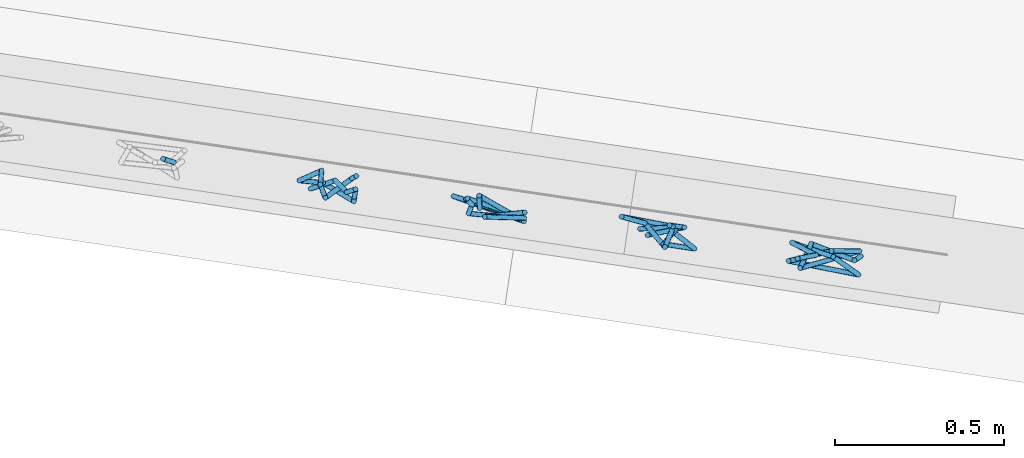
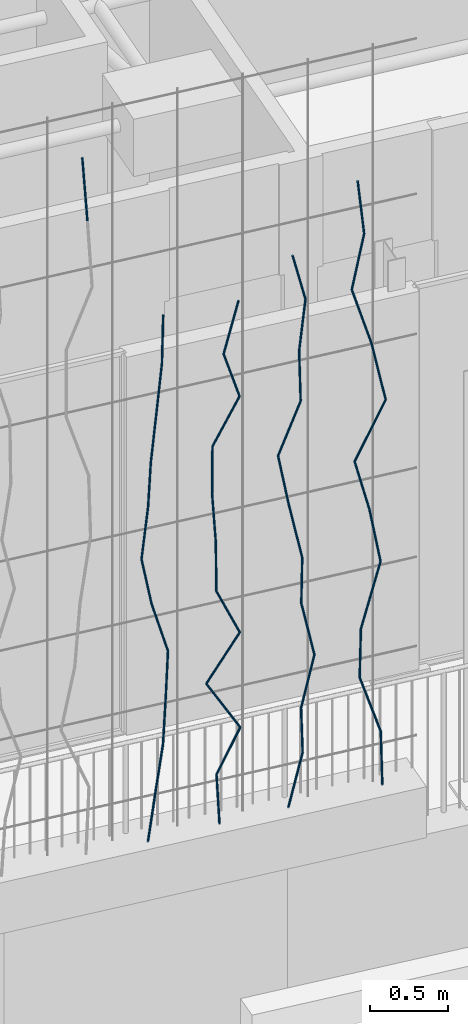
# One storey, part 113 of 142: 45 members, 1 element without a shape of its own.
"""IFC4 building model written with IfcOpenShell, lengths in metres."""

from ifc_helpers import new_model, si_unit, direction, frame, origin_with_axes, place, context, subcontext, project, spatial, circle, extrude, material, material_profile, profile_set, profile_usage, type_object, element, aggregate, save


model = new_model("IFC4")

# Units and contexts
model_context = context("Model", 3, precision=1e-05, world=origin_with_axes(), true_north=direction((0.0, 1.0)))
body_context = subcontext(model_context, "Body", "Model", "MODEL_VIEW")
ifc_project = project(units=[si_unit("VOLUMEUNIT", "CUBIC_METRE"), si_unit("LENGTHUNIT", "METRE"), si_unit("AREAUNIT", "SQUARE_METRE")], contexts=[model_context])

# Site, building, storey
site_placement = place(None, origin_with_axes())
site = spatial("IfcSite", under=ifc_project, at=site_placement, Name="Lares · Rua das Mercês · artigo 4771")
building_placement = place(site_placement, frame((12.0, 10.2, 13.9), z_axis=(0.0, 0.0, 1.0), x_axis=(0.989015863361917, -0.147809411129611, 0.0)))
building = spatial("IfcBuilding", under=site, at=building_placement, Name="Casa Sobreposta")
storey_placement = place(building_placement, origin_with_axes())
storey = spatial("IfcBuildingStorey", under=building, at=storey_placement, Name="00 · Habitação e estacionamento", Elevation=13.9)

# Assembly, members
assembly_placement = place(storey_placement, origin_with_axes())
assembly = element("IfcElementAssembly", 1, at=assembly_placement, inside=storey, Name="Fachada sul e pátio · estrutura e trepadeiras", ObjectType="LIVING_SHADE_TRELLIS", PredefinedType="USERDEFINED")
ifc_material = material(Name="Ramos de trepadeiras", Category="wood")
ifc_material_profile = material_profile(ifc_material, circle(Radius=0.0075))
ifc_profile_set = profile_set([ifc_material_profile], Name="D0.015")
ifc_profile_usage_1 = profile_usage(ifc_profile_set)
member_type = type_object("IfcMemberType", Name="D0.015 / vine_wood", PredefinedType="NOTDEFINED", material=ifc_profile_set)
member_1_placement = place(assembly_placement, frame((9.199402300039, -1.67760846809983, 5.32537169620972), z_axis=(-0.0662661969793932, 0.0107995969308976, 0.997743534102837), x_axis=(0.160850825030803, 0.986978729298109, 0.0)))
member_1 = element("IfcMember", 2, at=member_1_placement, type_object=member_type, material=ifc_profile_usage_1, Name="Trepadeiras · ramo", context=body_context, shape_type="SweptSolid", body=[
    extrude(circle(Radius=0.0075), origin_with_axes(), (0.0, 0.0, 1.0), 0.49866238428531),
])
ifc_profile_usage_2 = profile_usage(ifc_profile_set)
member_2_placement = place(assembly_placement, frame((9.61025777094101, -1.6950336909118, 0.35), z_axis=(0.181835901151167, 0.0919976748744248, 0.97901590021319), x_axis=(0.451447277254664, -0.892297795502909, 0.0)))
member_2 = element("IfcMember", 3, at=member_2_placement, type_object=member_type, material=ifc_profile_usage_2, Name="Trepadeiras · ramo", context=body_context, shape_type="SweptSolid", body=[
    extrude(circle(Radius=0.0075), origin_with_axes(), (0.0, 0.0, 1.0), 0.377933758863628),
])
ifc_profile_usage_3 = profile_usage(ifc_profile_set)
member_3_placement = place(assembly_placement, frame((9.67897969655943, -1.66026466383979, 0.72000315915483), z_axis=(0.103219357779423, -0.0774565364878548, 0.991638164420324), x_axis=(-0.600208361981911, -0.799843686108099, -1.33299173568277e-17)))
member_3 = element("IfcMember", 4, at=member_3_placement, type_object=member_type, material=ifc_profile_usage_3, Name="Trepadeiras · ramo", context=body_context, shape_type="SweptSolid", body=[
    extrude(circle(Radius=0.0075), origin_with_axes(), (0.0, 0.0, 1.0), 0.37312315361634),
])
ifc_profile_usage_4 = profile_usage(ifc_profile_set)
member_4_placement = place(assembly_placement, frame((9.71749322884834, -1.68916549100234, 1.09000631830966), z_axis=(0.0661164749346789, 0.0332706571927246, 0.997257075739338), x_axis=(0.449508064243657, -0.893276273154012, 0.0)))
member_4 = element("IfcMember", 5, at=member_4_placement, type_object=member_type, material=ifc_profile_usage_4, Name="Trepadeiras · ramo", context=body_context, shape_type="SweptSolid", body=[
    extrude(circle(Radius=0.0075), origin_with_axes(), (0.0, 0.0, 1.0), 0.371020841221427),
])
ifc_profile_usage_5 = profile_usage(ifc_profile_set)
member_5_placement = place(assembly_placement, frame((9.7420238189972, -1.67682138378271, 1.46000947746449), z_axis=(0.00123806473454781, -0.0968645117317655, 0.995296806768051), x_axis=(-0.999918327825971, -0.0127803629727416, 0.0)))
member_5 = element("IfcMember", 6, at=member_5_placement, type_object=member_type, material=ifc_profile_usage_5, Name="Trepadeiras · ramo", context=body_context, shape_type="SweptSolid", body=[
    extrude(circle(Radius=0.0075), origin_with_axes(), (0.0, 0.0, 1.0), 0.371751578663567),
])
ifc_profile_usage_6 = profile_usage(ifc_profile_set)
member_6_placement = place(assembly_placement, frame((9.74248407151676, -1.71283091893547, 1.83001263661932), z_axis=(-0.254351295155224, 0.104439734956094, 0.961456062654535), x_axis=(0.379838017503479, 0.925053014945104, 0.0)))
member_6 = element("IfcMember", 7, at=member_6_placement, type_object=member_type, material=ifc_profile_usage_6, Name="Trepadeiras · ramo", context=body_context, shape_type="SweptSolid", body=[
    extrude(circle(Radius=0.0075), origin_with_axes(), (0.0, 0.0, 1.0), 0.384836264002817),
])
ifc_profile_usage_7 = profile_usage(ifc_profile_set)
member_7_placement = place(assembly_placement, frame((9.64460046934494, -1.67263872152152, 2.20001579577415), z_axis=(-0.187379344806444, -0.00905636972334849, 0.982245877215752), x_axis=(-0.0482753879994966, 0.998834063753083, 0.0)))
member_7 = element("IfcMember", 8, at=member_7_placement, type_object=member_type, material=ifc_profile_usage_7, Name="Trepadeiras · ramo", context=body_context, shape_type="SweptSolid", body=[
    extrude(circle(Radius=0.0075), origin_with_axes(), (0.0, 0.0, 1.0), 0.376690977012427),
])
ifc_profile_usage_8 = profile_usage(ifc_profile_set)
member_8_placement = place(assembly_placement, frame((9.57401636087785, -1.67605017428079, 2.57001895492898), z_axis=(0.161141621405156, 0.102376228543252, 0.981607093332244), x_axis=(0.536247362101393, -0.844060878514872, 0.0)))
member_8 = element("IfcMember", 9, at=member_8_placement, type_object=member_type, material=ifc_profile_usage_8, Name="Trepadeiras · ramo", context=body_context, shape_type="SweptSolid", body=[
    extrude(circle(Radius=0.0075), origin_with_axes(), (0.0, 0.0, 1.0), 0.376936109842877),
])
ifc_profile_usage_9 = profile_usage(ifc_profile_set)
member_9_placement = place(assembly_placement, frame((9.63475645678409, -1.63746087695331, 2.94002211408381), z_axis=(0.00596860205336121, -0.110693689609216, 0.993836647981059), x_axis=(-0.998549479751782, -0.0538417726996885, 0.0)))
member_9 = element("IfcMember", 10, at=member_9_placement, type_object=member_type, material=ifc_profile_usage_9, Name="Trepadeiras · ramo", context=body_context, shape_type="SweptSolid", body=[
    extrude(circle(Radius=0.0075), origin_with_axes(), (0.0, 0.0, 1.0), 0.37229776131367),
])
ifc_profile_usage_10 = profile_usage(ifc_profile_set)
member_10_placement = place(assembly_placement, frame((9.63697855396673, -1.67867188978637, 3.31002527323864), z_axis=(0.0552654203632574, -0.097749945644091, 0.993675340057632), x_axis=(-0.870503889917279, -0.492161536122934, 0.0)))
member_10 = element("IfcMember", 11, at=member_10_placement, type_object=member_type, material=ifc_profile_usage_10, Name="Trepadeiras · ramo", context=body_context, shape_type="SweptSolid", body=[
    extrude(circle(Radius=0.0075), origin_with_axes(), (0.0, 0.0, 1.0), 0.372358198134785),
])
ifc_profile_usage_11 = profile_usage(ifc_profile_set)
member_11_placement = place(assembly_placement, frame((9.65755708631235, -1.71506988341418, 3.68002843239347), z_axis=(0.181682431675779, 0.179110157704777, 0.966907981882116), x_axis=(0.702047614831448, -0.712130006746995, 0.0)))
member_11 = element("IfcMember", 12, at=member_11_placement, type_object=member_type, material=ifc_profile_usage_11, Name="Trepadeiras · ramo", context=body_context, shape_type="SweptSolid", body=[
    extrude(circle(Radius=0.0075), origin_with_axes(), (0.0, 0.0, 1.0), 0.382666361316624),
])
ifc_profile_usage_12 = profile_usage(ifc_profile_set)
member_12_placement = place(assembly_placement, frame((9.72708084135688, -1.64653045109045, 4.0500315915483), z_axis=(0.0314138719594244, 0.0234221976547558, 0.999231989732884), x_axis=(0.999506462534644, -0.000736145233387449, -0.0314052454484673)))
member_12 = element("IfcMember", 13, at=member_12_placement, type_object=member_type, material=ifc_profile_usage_12, Name="Trepadeiras · ramo", context=body_context, shape_type="SweptSolid", body=[
    extrude(circle(Radius=0.0075), origin_with_axes(), (0.0, 0.0, 1.0), 0.370287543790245),
])
ifc_profile_usage_13 = profile_usage(ifc_profile_set)
member_13_placement = place(assembly_placement, frame((10.1127758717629, -1.67777790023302, 0.35), z_axis=(-0.0178101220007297, 0.0972106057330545, 0.995104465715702), x_axis=(0.983627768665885, 0.180212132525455, 0.0)))
member_13 = element("IfcMember", 14, at=member_13_placement, type_object=member_type, material=ifc_profile_usage_13, Name="Trepadeiras · ramo", context=body_context, shape_type="SweptSolid", body=[
    extrude(circle(Radius=0.0075), origin_with_axes(), (0.0, 0.0, 1.0), 0.372215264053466),
])
ifc_profile_usage_14 = profile_usage(ifc_profile_set)
member_14_placement = place(assembly_placement, frame((10.1061466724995, -1.64159462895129, 0.720393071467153), z_axis=(0.354526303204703, -0.138601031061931, 0.924716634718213), x_axis=(-0.36411078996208, -0.931355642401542, 0.0)))
member_14 = element("IfcMember", 15, at=member_14_placement, type_object=member_type, material=ifc_profile_usage_14, Name="Trepadeiras · ramo", context=body_context, shape_type="SweptSolid", body=[
    extrude(circle(Radius=0.0075), origin_with_axes(), (0.0, 0.0, 1.0), 0.400547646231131),
])
ifc_profile_usage_15 = profile_usage(ifc_profile_set)
member_15_placement = place(assembly_placement, frame((10.2481513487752, -1.69711094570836, 1.09078614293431), z_axis=(-0.504523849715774, 0.0987501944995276, 0.857731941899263), x_axis=(0.192084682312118, 0.98137835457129, 0.0)))
member_15 = element("IfcMember", 16, at=member_15_placement, type_object=member_type, material=ifc_profile_usage_15, Name="Trepadeiras · ramo", context=body_context, shape_type="SweptSolid", body=[
    extrude(circle(Radius=0.0075), origin_with_axes(), (0.0, 0.0, 1.0), 0.431828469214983),
])
ifc_profile_usage_16 = profile_usage(ifc_profile_set)
member_16_placement = place(assembly_placement, frame((10.03028358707, -1.65446780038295, 1.46117921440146), z_axis=(0.505500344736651, -0.0809606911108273, 0.859019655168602), x_axis=(-0.158144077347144, -0.987416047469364, 0.0)))
member_16 = element("IfcMember", 17, at=member_16_placement, type_object=member_type, material=ifc_profile_usage_16, Name="Trepadeiras · ramo", context=body_context, shape_type="SweptSolid", body=[
    extrude(circle(Radius=0.0075), origin_with_axes(), (0.0, 0.0, 1.0), 0.431181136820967),
])
ifc_profile_usage_17 = profile_usage(ifc_profile_set)
member_17_placement = place(assembly_placement, frame((10.2482458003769, -1.68937652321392, 1.83157228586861), z_axis=(-0.407442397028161, -0.0220574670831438, 0.91296449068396), x_axis=(-0.0540572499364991, 0.998537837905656, 0.0)))
member_17 = element("IfcMember", 18, at=member_17_placement, type_object=member_type, material=ifc_profile_usage_17, Name="Trepadeiras · ramo", context=body_context, shape_type="SweptSolid", body=[
    extrude(circle(Radius=0.0075), origin_with_axes(), (0.0, 0.0, 1.0), 0.405703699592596),
])
ifc_profile_usage_18 = profile_usage(ifc_profile_set)
member_18_placement = place(assembly_placement, frame((10.0829449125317, -1.6983253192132, 2.20196535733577), z_axis=(0.0168158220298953, 0.0729273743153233, 0.997195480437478), x_axis=(0.974430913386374, -0.224687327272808, 0.0)))
member_18 = element("IfcMember", 19, at=member_18_placement, type_object=member_type, material=ifc_profile_usage_18, Name="Trepadeiras · ramo", context=body_context, shape_type="SweptSolid", body=[
    extrude(circle(Radius=0.0075), origin_with_axes(), (0.0, 0.0, 1.0), 0.371434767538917),
])
ifc_profile_usage_19 = profile_usage(ifc_profile_set)
member_19_placement = place(assembly_placement, frame((10.0891908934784, -1.67123755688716, 2.57235842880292), z_axis=(-0.0535324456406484, 0.0374666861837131, 0.997862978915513), x_axis=(0.573400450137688, 0.819275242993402, 0.0)))
member_19 = element("IfcMember", 20, at=member_19_placement, type_object=member_type, material=ifc_profile_usage_19, Name="Trepadeiras · ramo", context=body_context, shape_type="SweptSolid", body=[
    extrude(circle(Radius=0.0075), origin_with_axes(), (0.0, 0.0, 1.0), 0.371186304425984),
])
ifc_profile_usage_20 = profile_usage(ifc_profile_set)
member_20_placement = place(assembly_placement, frame((10.0693203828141, -1.65733043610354, 2.94275150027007), z_axis=(0.00942132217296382, 0.00713172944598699, 0.999930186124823), x_axis=(0.999955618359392, -6.71933029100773e-05, -0.00942108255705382)))
member_20 = element("IfcMember", 21, at=member_20_placement, type_object=member_type, material=ifc_profile_usage_20, Name="Trepadeiras · ramo", context=body_context, shape_type="SweptSolid", body=[
    extrude(circle(Radius=0.0075), origin_with_axes(), (0.0, 0.0, 1.0), 0.370418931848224),
])
ifc_profile_usage_21 = profile_usage(ifc_profile_set)
member_21_placement = place(assembly_placement, frame((10.07281021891, -1.65468870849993, 3.31314457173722), z_axis=(0.424990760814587, -0.0796342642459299, 0.90168799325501), x_axis=(-0.184173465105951, -0.982893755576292, 0.0)))
member_21 = element("IfcMember", 22, at=member_21_placement, type_object=member_type, material=ifc_profile_usage_21, Name="Trepadeiras · ramo", context=body_context, shape_type="SweptSolid", body=[
    extrude(circle(Radius=0.0075), origin_with_axes(), (0.0, 0.0, 1.0), 0.410777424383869),
])
ifc_profile_usage_22 = profile_usage(ifc_profile_set)
member_22_placement = place(assembly_placement, frame((10.2473868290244, -1.68740066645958, 3.68353764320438), z_axis=(-0.297817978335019, -0.0352407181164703, 0.9539719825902), x_axis=(-0.117509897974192, 0.993071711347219, 0.0)))
member_22 = element("IfcMember", 23, at=member_22_placement, type_object=member_type, material=ifc_profile_usage_22, Name="Trepadeiras · ramo", context=body_context, shape_type="SweptSolid", body=[
    extrude(circle(Radius=0.0075), origin_with_axes(), (0.0, 0.0, 1.0), 0.388264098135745),
])
ifc_profile_usage_23 = profile_usage(ifc_profile_set)
member_23_placement = place(assembly_placement, frame((10.1317548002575, -1.70108337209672, 4.05393071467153), z_axis=(0.296227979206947, 0.07819125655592, 0.951911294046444), x_axis=(0.255215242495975, -0.96688426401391, 0.0)))
member_23 = element("IfcMember", 24, at=member_23_placement, type_object=member_type, material=ifc_profile_usage_23, Name="Trepadeiras · ramo", context=body_context, shape_type="SweptSolid", body=[
    extrude(circle(Radius=0.0075), origin_with_axes(), (0.0, 0.0, 1.0), 0.389104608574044),
])
ifc_profile_usage_24 = profile_usage(ifc_profile_set)
member_24_placement = place(assembly_placement, frame((10.590649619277, -1.66855686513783, 0.35), z_axis=(0.264650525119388, 0.0531521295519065, 0.962878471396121), x_axis=(0.196906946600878, -0.980422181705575, 0.0)))
member_24 = element("IfcMember", 25, at=member_24_placement, type_object=member_type, material=ifc_profile_usage_24, Name="Trepadeiras · ramo", context=body_context, shape_type="SweptSolid", body=[
    extrude(circle(Radius=0.0075), origin_with_axes(), (0.0, 0.0, 1.0), 0.409890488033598),
])
ifc_profile_usage_25 = profile_usage(ifc_profile_set)
member_25_placement = place(assembly_placement, frame((10.6991273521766, -1.64677031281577, 0.7446747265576), z_axis=(-0.0820644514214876, -0.139915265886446, 0.986756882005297), x_axis=(-0.862576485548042, 0.505926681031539, 0.0)))
member_25 = element("IfcMember", 26, at=member_25_placement, type_object=member_type, material=ifc_profile_usage_25, Name="Trepadeiras · ramo", context=body_context, shape_type="SweptSolid", body=[
    extrude(circle(Radius=0.0075), origin_with_axes(), (0.0, 0.0, 1.0), 0.399971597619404),
])
ifc_profile_usage_26 = profile_usage(ifc_profile_set)
member_26_placement = place(assembly_placement, frame((10.6663039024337, -1.70273244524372, 1.1393494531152), z_axis=(0.228028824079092, 0.000120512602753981, 0.973654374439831), x_axis=(0.000528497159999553, -0.999999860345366, 0.0)))
member_26 = element("IfcMember", 27, at=member_26_placement, type_object=member_type, material=ifc_profile_usage_26, Name="Trepadeiras · ramo", context=body_context, shape_type="SweptSolid", body=[
    extrude(circle(Radius=0.0075), origin_with_axes(), (0.0, 0.0, 1.0), 0.40535403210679),
])
ifc_profile_usage_27 = profile_usage(ifc_profile_set)
member_27_placement = place(assembly_placement, frame((10.7587363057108, -1.70268359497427, 1.5340241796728), z_axis=(-0.183407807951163, 0.104798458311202, 0.977434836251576), x_axis=(0.496117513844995, 0.868255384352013, 0.0)))
member_27 = element("IfcMember", 28, at=member_27_placement, type_object=member_type, material=ifc_profile_usage_27, Name="Trepadeiras · ramo", context=body_context, shape_type="SweptSolid", body=[
    extrude(circle(Radius=0.0075), origin_with_axes(), (0.0, 0.0, 1.0), 0.403786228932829),
])
ifc_profile_usage_28 = profile_usage(ifc_profile_set)
member_28_placement = place(assembly_placement, frame((10.6846787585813, -1.66036742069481, 1.9286989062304), z_axis=(-0.0335710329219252, -0.126691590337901, 0.991373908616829), x_axis=(-0.966639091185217, 0.256142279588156, 0.0)))
member_28 = element("IfcMember", 29, at=member_28_placement, type_object=member_type, material=ifc_profile_usage_28, Name="Trepadeiras · ramo", context=body_context, shape_type="SweptSolid", body=[
    extrude(circle(Radius=0.0075), origin_with_axes(), (0.0, 0.0, 1.0), 0.398108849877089),
])
ifc_profile_usage_29 = profile_usage(ifc_profile_set)
member_29_placement = place(assembly_placement, frame((10.6713138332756, -1.71080446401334, 2.323373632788), z_axis=(-0.170517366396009, 0.151109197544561, 0.973699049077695), x_axis=(0.663230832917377, 0.748414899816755, 0.0)))
member_29 = element("IfcMember", 30, at=member_29_placement, type_object=member_type, material=ifc_profile_usage_29, Name="Trepadeiras · ramo", context=body_context, shape_type="SweptSolid", body=[
    extrude(circle(Radius=0.0075), origin_with_axes(), (0.0, 0.0, 1.0), 0.405335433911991),
])
ifc_profile_usage_30 = profile_usage(ifc_profile_set)
member_30_placement = place(assembly_placement, frame((10.6021971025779, -1.64955455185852, 2.7180483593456), z_axis=(-0.175755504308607, 0.0216898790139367, 0.984194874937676), x_axis=(0.122480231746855, 0.992470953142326, 0.0)))
member_30 = element("IfcMember", 31, at=member_30_placement, type_object=member_type, material=ifc_profile_usage_30, Name="Trepadeiras · ramo", context=body_context, shape_type="SweptSolid", body=[
    extrude(circle(Radius=0.0075), origin_with_axes(), (0.0, 0.0, 1.0), 0.401012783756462),
])
ifc_profile_usage_31 = profile_usage(ifc_profile_set)
member_31_placement = place(assembly_placement, frame((10.5317168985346, -1.6408566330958, 3.1127230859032), z_axis=(0.363053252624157, -0.0146242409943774, 0.931653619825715), x_axis=(-0.0402486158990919, -0.99918969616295, 0.0)))
member_31 = element("IfcMember", 32, at=member_31_placement, type_object=member_type, material=ifc_profile_usage_31, Name="Trepadeiras · ramo", context=body_context, shape_type="SweptSolid", body=[
    extrude(circle(Radius=0.0075), origin_with_axes(), (0.0, 0.0, 1.0), 0.423628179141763),
])
ifc_profile_usage_32 = profile_usage(ifc_profile_set)
member_32_placement = place(assembly_placement, frame((10.6855164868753, -1.64705187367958, 3.5073978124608), z_axis=(-0.0246994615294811, 0.00534946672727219, 0.999680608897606), x_axis=(0.999694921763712, 0.00013216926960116, 0.0246991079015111)))
member_32 = element("IfcMember", 33, at=member_32_placement, type_object=member_type, material=ifc_profile_usage_32, Name="Trepadeiras · ramo", context=body_context, shape_type="SweptSolid", body=[
    extrude(circle(Radius=0.0075), origin_with_axes(), (0.0, 0.0, 1.0), 0.394800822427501),
])
ifc_profile_usage_33 = profile_usage(ifc_profile_set)
member_33_placement = place(assembly_placement, frame((10.6757651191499, -1.6449398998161, 3.9020725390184), z_axis=(0.110635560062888, 0.000545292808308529, 0.993860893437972), x_axis=(0.00492867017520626, -0.99998785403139, 0.0)))
member_33 = element("IfcMember", 34, at=member_33_placement, type_object=member_type, material=ifc_profile_usage_33, Name="Trepadeiras · ramo", context=body_context, shape_type="SweptSolid", body=[
    extrude(circle(Radius=0.0075), origin_with_axes(), (0.0, 0.0, 1.0), 0.397112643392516),
])
ifc_profile_usage_34 = profile_usage(ifc_profile_set)
member_34_placement = place(assembly_placement, frame((10.7196998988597, -1.64472335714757, 4.296747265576), z_axis=(-0.254491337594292, -0.0944672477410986, 0.962450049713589), x_axis=(-0.347998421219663, 0.937495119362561, 0.0)))
member_34 = element("IfcMember", 35, at=member_34_placement, type_object=member_type, material=ifc_profile_usage_34, Name="Trepadeiras · ramo", context=body_context, shape_type="SweptSolid", body=[
    extrude(circle(Radius=0.0075), origin_with_axes(), (0.0, 0.0, 1.0), 0.410072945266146),
])
ifc_profile_usage_35 = profile_usage(ifc_profile_set)
member_35_placement = place(assembly_placement, frame((11.248102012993, -1.65190370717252, 0.35), z_axis=(-0.0386935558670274, -0.034357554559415, 0.998660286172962), x_axis=(-0.663967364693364, 0.747761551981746, 0.0)))
member_35 = element("IfcMember", 36, at=member_35_placement, type_object=member_type, material=ifc_profile_usage_35, Name="Trepadeiras · ramo", context=body_context, shape_type="SweptSolid", body=[
    extrude(circle(Radius=0.0075), origin_with_axes(), (0.0, 0.0, 1.0), 0.438063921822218),
])
ifc_profile_usage_36 = profile_usage(ifc_profile_set)
member_36_placement = place(assembly_placement, frame((11.2311517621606, -1.66695451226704, 0.787477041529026), z_axis=(-0.292111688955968, 0.0645743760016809, 0.954201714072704), x_axis=(0.215849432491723, 0.976426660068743, 0.0)))
member_36 = element("IfcMember", 37, at=member_36_placement, type_object=member_type, material=ifc_profile_usage_36, Name="Trepadeiras · ramo", context=body_context, shape_type="SweptSolid", body=[
    extrude(circle(Radius=0.0075), origin_with_axes(), (0.0, 0.0, 1.0), 0.458474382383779),
])
ifc_profile_usage_37 = profile_usage(ifc_profile_set)
member_37_placement = place(assembly_placement, frame((11.0972260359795, -1.63734881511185, 1.22495408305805), z_axis=(-0.0480043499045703, -0.17064406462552, 0.984162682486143), x_axis=(-0.962635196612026, 0.270801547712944, 0.0)))
member_37 = element("IfcMember", 38, at=member_37_placement, type_object=member_type, material=ifc_profile_usage_37, Name="Trepadeiras · ramo", context=body_context, shape_type="SweptSolid", body=[
    extrude(circle(Radius=0.0075), origin_with_axes(), (0.0, 0.0, 1.0), 0.44451699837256),
])
ifc_profile_usage_38 = profile_usage(ifc_profile_set)
member_38_placement = place(assembly_placement, frame((11.0758872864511, -1.71320300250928, 1.66243112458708), z_axis=(0.349610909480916, 0.159453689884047, 0.923226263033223), x_axis=(0.414966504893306, -0.909836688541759, 0.0)))
member_38 = element("IfcMember", 39, at=member_38_placement, type_object=member_type, material=ifc_profile_usage_38, Name="Trepadeiras · ramo", context=body_context, shape_type="SweptSolid", body=[
    extrude(circle(Radius=0.0075), origin_with_axes(), (0.0, 0.0, 1.0), 0.473856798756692),
])
ifc_profile_usage_39 = profile_usage(ifc_profile_set)
member_39_placement = place(assembly_placement, frame((11.2415527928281, -1.63764478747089, 2.09990816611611), z_axis=(-0.183712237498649, -0.026320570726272, 0.982627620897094), x_axis=(-0.141822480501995, 0.989892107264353, 0.0)))
member_39 = element("IfcMember", 40, at=member_39_placement, type_object=member_type, material=ifc_profile_usage_39, Name="Trepadeiras · ramo", context=body_context, shape_type="SweptSolid", body=[
    extrude(circle(Radius=0.0075), origin_with_axes(), (0.0, 0.0, 1.0), 0.445211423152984),
])
ifc_profile_usage_40 = profile_usage(ifc_profile_set)
member_40_placement = place(assembly_placement, frame((11.1597620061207, -1.64936300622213, 2.53738520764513), z_axis=(-0.265224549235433, -0.105236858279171, 0.958426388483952), x_axis=(-0.368812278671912, 0.92950390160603, 0.0)))
member_40 = element("IfcMember", 41, at=member_40_placement, type_object=member_type, material=ifc_profile_usage_40, Name="Trepadeiras · ramo", context=body_context, shape_type="SweptSolid", body=[
    extrude(circle(Radius=0.0075), origin_with_axes(), (0.0, 0.0, 1.0), 0.456453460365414),
])
ifc_profile_usage_41 = profile_usage(ifc_profile_set)
member_41_placement = place(assembly_placement, frame((11.0386993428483, -1.69739873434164, 2.97486224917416), z_axis=(0.434271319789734, -0.0200254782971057, 0.900559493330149), x_axis=(-0.0460638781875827, -0.998938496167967, 0.0)))
member_41 = element("IfcMember", 42, at=member_41_placement, type_object=member_type, material=ifc_profile_usage_41, Name="Trepadeiras · ramo", context=body_context, shape_type="SweptSolid", body=[
    extrude(circle(Radius=0.0075), origin_with_axes(), (0.0, 0.0, 1.0), 0.485783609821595),
])
ifc_profile_usage_42 = profile_usage(ifc_profile_set)
member_42_placement = place(assembly_placement, frame((11.2496612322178, -1.70712678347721, 3.41233929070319), z_axis=(-0.183988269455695, 0.092285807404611, 0.97858655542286), x_axis=(0.448346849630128, 0.893859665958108, 0.0)))
member_42 = element("IfcMember", 43, at=member_42_placement, type_object=member_type, material=ifc_profile_usage_42, Name="Trepadeiras · ramo", context=body_context, shape_type="SweptSolid", body=[
    extrude(circle(Radius=0.0075), origin_with_axes(), (0.0, 0.0, 1.0), 0.447049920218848),
])
ifc_profile_usage_43 = profile_usage(ifc_profile_set)
member_43_placement = place(assembly_placement, frame((11.1674092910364, -1.66587042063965, 3.84981633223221), z_axis=(-0.277576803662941, 0.0517158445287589, 0.959310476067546), x_axis=(0.183160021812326, 0.983083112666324, 0.0)))
member_43 = element("IfcMember", 44, at=member_43_placement, type_object=member_type, material=ifc_profile_usage_43, Name="Trepadeiras · ramo", context=body_context, shape_type="SweptSolid", body=[
    extrude(circle(Radius=0.0075), origin_with_axes(), (0.0, 0.0, 1.0), 0.456032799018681),
])
ifc_profile_usage_44 = profile_usage(ifc_profile_set)
member_44_placement = place(assembly_placement, frame((11.0408251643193, -1.64228629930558, 4.28729337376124), z_axis=(0.169074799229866, -0.0585839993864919, 0.983860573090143), x_axis=(-0.327400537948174, -0.944885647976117, 0.0)))
member_44 = element("IfcMember", 45, at=member_44_placement, type_object=member_type, material=ifc_profile_usage_44, Name="Trepadeiras · ramo", context=body_context, shape_type="SweptSolid", body=[
    extrude(circle(Radius=0.0075), origin_with_axes(), (0.0, 0.0, 1.0), 0.444653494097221),
])
ifc_profile_usage_45 = profile_usage(ifc_profile_set)
member_45_placement = place(assembly_placement, frame((11.1160048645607, -1.66833587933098, 4.72477041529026), z_axis=(-0.117255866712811, -0.0408900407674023, 0.992259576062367), x_axis=(-0.32927761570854, 0.944233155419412, 6.93059025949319e-18)))
member_45 = element("IfcMember", 46, at=member_45_placement, type_object=member_type, material=ifc_profile_usage_45, Name="Trepadeiras · ramo", context=body_context, shape_type="SweptSolid", body=[
    extrude(circle(Radius=0.0075), origin_with_axes(), (0.0, 0.0, 1.0), 0.440889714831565),
])
aggregate(assembly, [member_1, member_2, member_3, member_4, member_5, member_6, member_7, member_8, member_9, member_10, member_11, member_12, member_13, member_14, member_15, member_16, member_17, member_18, member_19, member_20, member_21, member_22, member_23, member_24, member_25, member_26, member_27, member_28, member_29, member_30, member_31, member_32, member_33, member_34, member_35, member_36, member_37, member_38, member_39, member_40, member_41, member_42, member_43, member_44, member_45])

save(model, "model.ifc")
